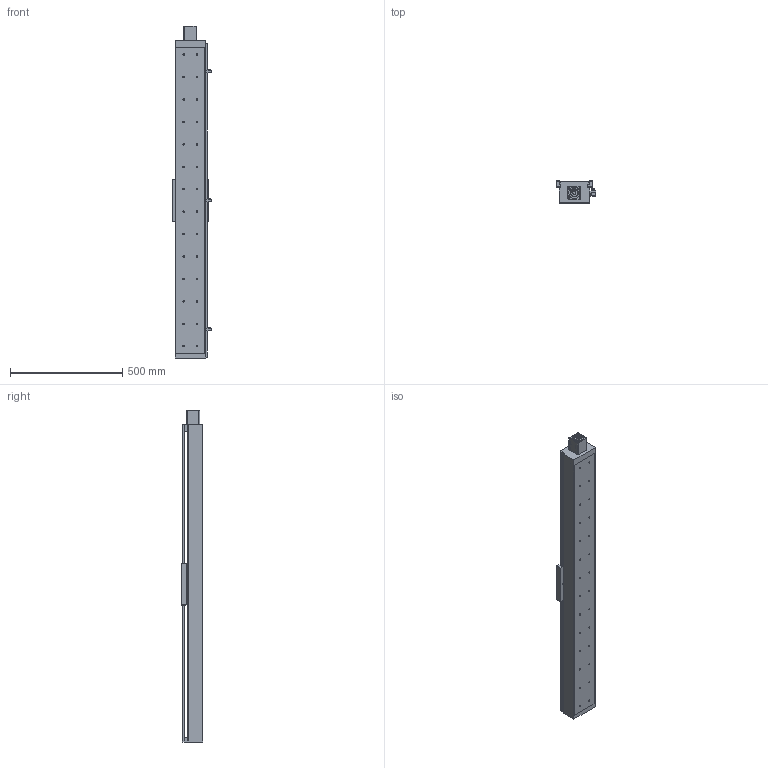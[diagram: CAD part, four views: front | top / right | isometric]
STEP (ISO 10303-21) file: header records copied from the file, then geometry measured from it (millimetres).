
FILE_DESCRIPTION((''),'2;1');
FILE_NAME('E:\libraries\UIA actuator library 2009\standard actuator\UIA136 ball screw 25\UIA136R15NDC-_ _ _-R25_ _, stp file 27Apr16\UIA136R15NDC-1150-R25_ _-M60-P13-C10-S.stp','2016-04-28T17:22:58',('h029'),(''),'Autodesk Inventor 11','Autodesk Inventor 11','');
FILE_SCHEMA(('AUTOMOTIVE_DESIGN { 1 0 10303 214 1 1 1 1 }'));
Length unit declared in the file: millimetre
Products named in the file (10): UIA136R15NDC-1150; UIA136R15NDC-body; motor mount F60; SOH-32C; SOH-32C-3; SOH-32C-1; SOH-32C-2; Carriage; Sensor Switch; sensor rail
Assembly tree (9 placements, depth 3):
  UIA136R15NDC-1150
    UIA136R15NDC-body
    motor mount F60
    SOH-32C
      SOH-32C-3
      SOH-32C-1
      SOH-32C-2
    Carriage
    Sensor Switch
    sensor rail
Bounding box: 174.5 x 98 x 1480 mm (x, y, z)
Volume: 5374816 mm3; surface area: 1519329.4 mm2
Topology: 8 solids, 8 shells, 544 faces, 1415 edges, 926 vertices
Faces by surface type: plane 324, bspline 170, cylinder 46, cone 4
Full cylindrical faces by diameter (mm): 2.459 x2, 3.242 x2, 4.5 x2, 7 x4, 7.5 x2, 14 x3, 17 x1, 32 x3, 37 x1, 50.3 x1, 50.5 x1
Entity records: 17780 total; most frequent: CARTESIAN_POINT 5300, ORIENTED_EDGE 2392, DIRECTION 2346, EDGE_CURVE 1196, VERTEX_POINT 862, EDGE_LOOP 848, VECTOR 816, LINE 816
